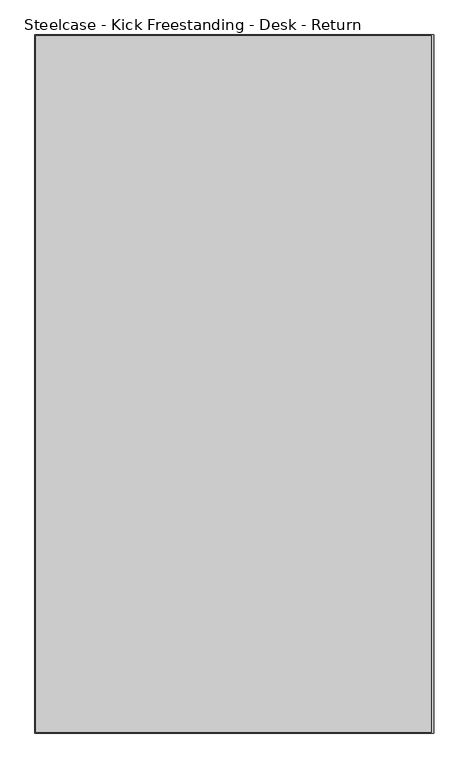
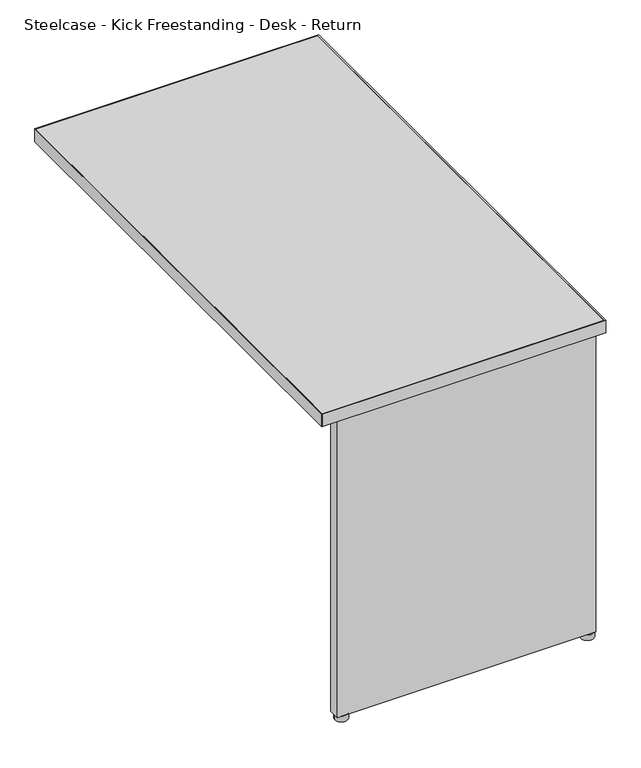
"""IFC4 building model written with IfcOpenShell, lengths in millimetres: furniture geometry, Steelcase - Kick Freestanding - Desk - Return : 24D x 42W - Left."""

from ifc_helpers import new_model, si_unit, point, frame, frame_2d, origin, origin_with_axes, place, context, project, spatial, polyline, circle_curve, trimmed, segment, composite_curve, outline, extrude, source, transform, mapped, element, save


def steelcase_kick_freestanding_desk_return_288acee6(model_context):
    return source(origin(), model_context, "Body", "SweptSolid", [
        extrude(outline(composite_curve([segment(trimmed(circle_curve(frame_2d((2220.2474425, -1588.2145152)), 13.97), [point((2206.2774425, -1588.2145152))], [point((2234.2174425, -1588.2145152))], False, "CARTESIAN"), True, "CONTINUOUS"), segment(trimmed(circle_curve(frame_2d((2220.2474425, -1588.2145152)), 13.97), [point((2234.2174425, -1588.2145152))], [point((2206.2774425, -1588.2145152))], False, "CARTESIAN"), True, "CONTINUOUS")], self_intersect=False)), origin_with_axes(), (0.0, 0.0, 1.0), 12.7),
        extrude(outline(composite_curve([segment(trimmed(circle_curve(frame_2d((2748.0594425, -1588.2145152)), 13.97), [point((2734.0894425, -1588.2145152))], [point((2762.0294425, -1588.2145152))], False, "CARTESIAN"), True, "CONTINUOUS"), segment(trimmed(circle_curve(frame_2d((2748.0594425, -1588.2145152)), 13.97), [point((2762.0294425, -1588.2145152))], [point((2734.0894425, -1588.2145152))], False, "CARTESIAN"), True, "CONTINUOUS")], self_intersect=False)), origin_with_axes(), (0.0, 0.0, 1.0), 12.7),
        extrude(outline(polyline([(2205.0074425, -1575.6669152), (2328.2736437, -1575.6669152), (2328.2736437, -1598.0951136), (2427.9940467, -1598.0951136), (2427.9940467, -1575.6669041), (2536.7314502, -1575.6669041), (2536.7314502, -1598.0951136), (2636.4518532, -1598.0951136), (2636.4518532, -1575.6669041), (2759.4894376, -1575.6669041), (2759.4894376, -1600.1525098), (2205.0074425, -1600.1525098), (2205.0074425, -1575.6669152)])), frame((0.0, 0.0, 12.7), z_axis=(0.0, 0.0, 1.0), x_axis=(1.0, 0.0, 0.0)), (0.0, 0.0, 1.0), 682.244),
        extrude(outline(polyline([(2769.2176592, -548.0845152), (2769.2176592, -1612.3445152), (2164.8500425, -1612.3445152), (2164.8500425, -548.0845152), (2769.2176592, -548.0845152)])), frame((0.0, 0.0, 694.944), z_axis=(0.0, 0.0, 1.0), x_axis=(1.0, 0.0, 0.0)), (0.0, 0.0, 1.0), 28.956),
        extrude(outline(polyline([(2773.4594425, -546.8145152), (2773.4594425, -1613.6145152), (2163.8594425, -1613.6145152), (2163.8594425, -546.8145152), (2773.4594425, -546.8145152)]), holes=[polyline([(2769.2176592, -548.0845152), (2164.8500425, -548.0845152), (2164.8500425, -1612.3445152), (2769.2176592, -1612.3445152), (2769.2176592, -548.0845152)])]), frame((0.0, 0.0, 694.944), z_axis=(0.0, 0.0, 1.0), x_axis=(1.0, 0.0, 0.0)), (0.0, 0.0, 1.0), 28.956),
    ])


if __name__ == "__main__":
    model = new_model("IFC4")
    model_context = context("Model", 3, world=origin())
    ifc_project = project(units=[si_unit("LENGTHUNIT", "METRE", prefix="MILLI")], contexts=[model_context])
    site = spatial("IfcSite", under=ifc_project)
    building = spatial("IfcBuilding", under=site)
    placement = place(None, origin())
    steelcase_kick_freestanding_desk_return_shape = steelcase_kick_freestanding_desk_return_288acee6(model_context)
    element("IfcFurniture", 1, ObjectType="Steelcase - Kick Freestanding - Desk - Return : 24D x 42W - Left", at=placement, inside=building, context=model_context, shape_type="MappedRepresentation", body=[
        mapped(steelcase_kick_freestanding_desk_return_shape, transform((0.0, 0.0, 0.0), x_axis=(1.0, 0.0, 0.0), y_axis=(0.0, 1.0, 0.0), z_axis=(0.0, 0.0, 1.0))),
    ])
    save(model, "model.ifc")
